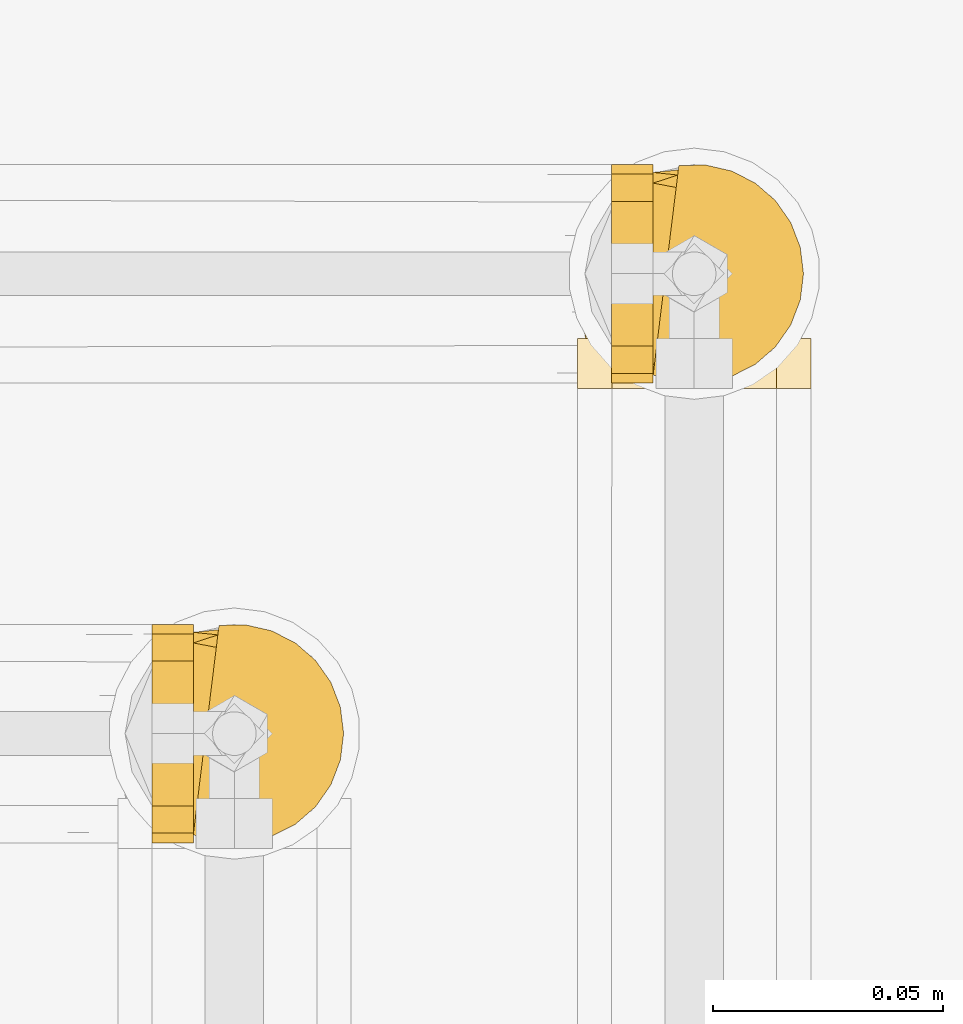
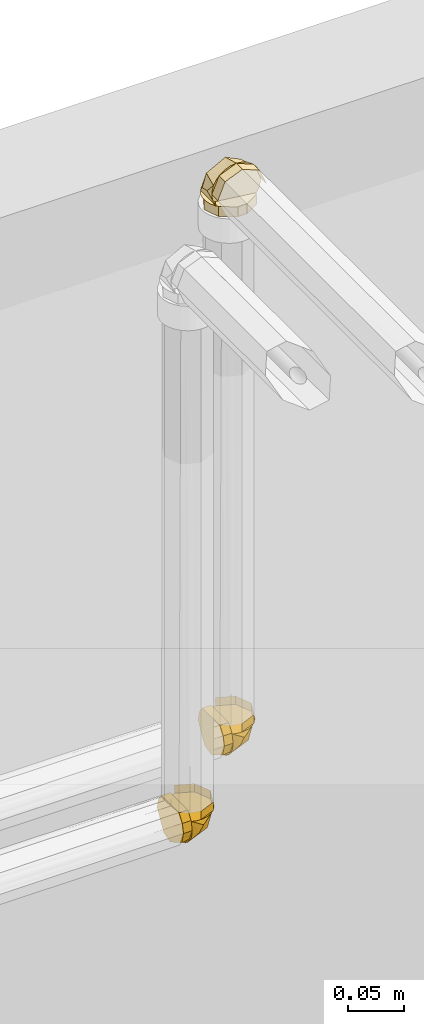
# One storey, part 399 of 652: 3 coverings.
"""IFC2X3 building model written with IfcOpenShell, lengths in millimetres."""

from ifc_helpers import new_model, entity, si_unit, converted_unit, direction, frame, origin, place, context, subcontext, project, spatial, face_set, surface_model, material, type_object, element, save


model = new_model("IFC2X3")

# Units and contexts
model_context = context("Model", 3, precision=0.01, world=frame((0.0, 0.0, 308426.39999999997)), true_north=direction((6.123233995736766e-17, 1.0)))
plan_context = context("Plan", 3, precision=0.01, world=frame((0.0, 0.0, 308426.39999999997)), true_north=direction((6.123233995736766e-17, 1.0)))
body_context = subcontext(model_context, "Body", "Model", "MODEL_VIEW")
ifc_project = project(units=[si_unit("LENGTHUNIT", "METRE", prefix="MILLI"), si_unit("AREAUNIT", "SQUARE_METRE"), si_unit("VOLUMEUNIT", "CUBIC_METRE"), converted_unit("PLANEANGLEUNIT", "DEGREE", entity("IfcPlaneAngleMeasure", 0.017453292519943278), si_unit("PLANEANGLEUNIT", "RADIAN"), dimensions=[0, 0, 0, 0, 0, 0, 0])], contexts=[model_context, plan_context])

# Site, building, storey
site_placement = place(None, origin())
site = spatial("IfcSite", under=ifc_project, at=site_placement, Name="Default", CompositionType="ELEMENT")
building_placement = place(site_placement, origin())
building = spatial("IfcBuilding", under=site, at=building_placement, CompositionType="ELEMENT")
storey_placement = place(building_placement, frame((0.0, 0.0, 1730.6999999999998)))
storey = spatial("IfcBuildingStorey", under=building, at=storey_placement, Name="EG_Produktion_FFB", CompositionType="ELEMENT", Elevation=1730.6999999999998)

# Coverings
ifc_material = material(Name="Dämmung - Armaflex-Schlauch")
covering_type = type_object("IfcCoveringType", Name="Rohrdämmung außen:Armaflex-Schlauch", PredefinedType="INSULATION")
covering_1_placement = place(storey_placement, frame((23718.23970135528, 77880.86412458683, 3326.9452722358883)))
element("IfcCovering", 1, at=covering_1_placement, inside=storey, type_object=covering_type, material=ifc_material, Name="Rohrdämmung außen:Armaflex-Schlauch", ObjectType="Rohrdämmung außen:Armaflex-Schlauch", PredefinedType="INSULATION", context=body_context, shape_type="SurfaceModel", body=[
    surface_model("IfcFaceBasedSurfaceModel", [(48.02950862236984, 12.44312541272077, -41.01927223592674), (50.77002630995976, 12.44312541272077, -35.60573373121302), (52.14558701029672, 12.44312541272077, -29.696024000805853), (52.07738272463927, 12.44312541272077, -23.628719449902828), (50.56932098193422, 12.44312541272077, -17.751425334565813), (47.70780097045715, 12.443125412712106, -12.400860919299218), (43.656763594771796, 12.443125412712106, -7.88356830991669), (38.648299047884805, 12.443125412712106, -4.458350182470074), (32.96935000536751, 12.443125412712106, -2.321442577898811), (26.94527223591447, 12.443125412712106, -1.595272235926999), (20.92119446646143, 12.443125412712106, -2.321442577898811), (15.242245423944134, 12.443125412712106, -4.458350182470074), (10.233780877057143, 12.443125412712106, -7.88356830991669), (6.1827435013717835, 12.443125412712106, -12.400860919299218), (3.3212234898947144, 12.44312541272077, -17.75142533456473), (1.8131617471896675, 12.44312541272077, -23.628719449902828), (1.744957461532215, 12.44312541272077, -29.696024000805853), (3.120518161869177, 12.44312541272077, -35.60573373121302), (5.861035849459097, 12.44312541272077, -41.01927223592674), (3.120518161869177, 17.85666391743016, -41.01927223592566), (1.744957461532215, 23.766373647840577, -41.019272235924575), (1.8131617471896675, 29.83367819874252, -41.019272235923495), (3.3212234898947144, 35.71097231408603, -41.019272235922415), (6.1827435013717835, 41.061536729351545, -41.019272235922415), (10.233780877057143, 45.57882933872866, -41.01927223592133), (15.242245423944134, 49.00404746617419, -41.01927223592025), (20.92119446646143, 51.14095507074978, -41.01927223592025), (26.94527223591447, 51.86712541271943, -41.01927223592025), (32.96935000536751, 51.14095507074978, -41.01927223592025), (38.648299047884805, 49.00404746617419, -41.01927223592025), (43.656763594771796, 45.57882933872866, -41.01927223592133), (47.70780097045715, 41.061536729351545, -41.019272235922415), (50.56932098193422, 35.71097231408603, -41.019272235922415), (52.07738272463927, 29.83367819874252, -41.019272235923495), (52.14558701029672, 23.766373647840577, -41.019272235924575), (50.77002630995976, 17.85666391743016, -41.01927223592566), (52.05357257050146, 26.013084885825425, -29.871929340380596), (43.78663531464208, 34.06840715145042, -16.063469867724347), (37.61956988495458, 12.441820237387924, -7.150641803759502), (26.945802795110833, 32.156895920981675, -6.8768213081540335), (47.86778155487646, 12.441820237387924, -26.70991304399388), (38.756709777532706, 43.78874406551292, -41.019504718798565), (26.945802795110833, 42.01210832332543, -23.94845369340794), (49.33513384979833, 24.403880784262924, -41.019504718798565), (1.6450215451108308, 21.334300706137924, -28.10517671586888), (7.958589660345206, 33.482396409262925, -18.427279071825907), (16.269710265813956, 46.309520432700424, -41.019504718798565), (17.227791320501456, 12.441820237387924, -8.240691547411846), (2.7100728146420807, 31.701109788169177, -31.44160097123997), (4.591353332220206, 12.441820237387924, -29.38533113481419), (5.993593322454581, 24.213194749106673, -41.019504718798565), (52.29541827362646, 1.549461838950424, -26.945363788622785), (52.29541827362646, 12.441820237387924, -26.945363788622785), (44.87029009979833, 12.441820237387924, -9.020295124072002), (44.87029009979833, 1.549461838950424, -9.020295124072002), (26.945802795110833, 12.441820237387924, -1.595166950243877), (26.945802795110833, 1.549461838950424, -1.595166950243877), (9.018990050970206, 12.441820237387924, -9.020295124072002), (9.018990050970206, 1.549461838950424, -9.020295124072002), (1.5961873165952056, 12.441820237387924, -26.945363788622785), (1.5961873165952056, 1.549461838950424, -26.945363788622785), (22.305904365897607, 1.5952722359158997, -51.91227223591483), (14.877316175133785, 5.955160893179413, -51.912272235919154), (7.448727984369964, 10.315049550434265, -51.91227223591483), (4.522000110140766, 18.416087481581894, -51.91227223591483), (1.5952722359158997, 26.517125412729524, -51.91227223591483), (4.764022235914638, 32.00556140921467, -51.91227223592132), (7.932772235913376, 37.493997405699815, -51.912272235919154), (11.101522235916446, 42.9824334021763, -51.91227223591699), (14.270272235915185, 48.47086939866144, -51.91227223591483), (20.60777223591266, 50.16899740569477, -51.91227223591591), (26.94527223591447, 51.86712541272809, -51.91227223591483), (32.43370823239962, 48.69837541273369, -51.91227223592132), (37.92214422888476, 45.52962541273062, -51.912272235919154), (43.410580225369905, 42.360875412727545, -51.91227223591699), (48.89901622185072, 39.19212541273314, -51.91227223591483), (50.59714422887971, 32.854625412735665, -51.91227223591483), (52.29527223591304, 26.517125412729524, -51.91227223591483), (49.36854436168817, 18.416087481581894, -51.912272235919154), (46.44181648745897, 10.315049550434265, -51.91227223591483), (39.013228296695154, 5.955160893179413, -51.91227223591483), (31.584640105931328, 1.5952722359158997, -51.91227223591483), (9.020115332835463, 44.442282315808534, -41.019272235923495), (7.1639045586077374, 39.96099309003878, -41.019272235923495), (5.307693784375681, 35.47970386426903, -41.019272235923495), (3.4514830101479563, 30.998414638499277, -41.019272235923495), (1.5952722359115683, 26.517125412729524, -41.019272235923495), (4.522000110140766, 18.416087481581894, -41.019272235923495), (7.448727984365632, 10.315049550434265, -41.019272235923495), (14.761316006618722, 6.023242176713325, -41.019272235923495), (18.533610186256, 3.809257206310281, -41.019272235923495), (22.305904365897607, 1.5952722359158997, -41.019272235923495), (31.584640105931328, 1.5952722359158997, -41.019272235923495), (39.013228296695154, 5.955160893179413, -41.019272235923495), (46.44181648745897, 10.315049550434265, -41.019272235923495), (49.32284242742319, 18.289586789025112, -41.019272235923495), (50.809057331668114, 22.403356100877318, -41.019272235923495), (52.29527223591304, 26.517125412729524, -41.019272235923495), (50.43906146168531, 30.998414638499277, -41.019272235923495), (48.58285068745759, 35.47970386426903, -41.019272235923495), (46.72663991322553, 39.96099309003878, -41.019272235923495), (44.87042913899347, 44.442282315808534, -41.019272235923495), (40.38913991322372, 46.29849309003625, -41.019272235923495), (35.90785068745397, 48.15470386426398, -41.019272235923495), (31.42656146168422, 50.01091463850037, -41.019272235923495), (26.94527223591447, 51.86712541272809, -41.019272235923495), (22.463983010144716, 50.01091463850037, -41.019272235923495), (17.982693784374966, 48.15470386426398, -41.019272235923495), (13.501404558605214, 46.29849309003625, -41.019272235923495)], [face_set([[[0, 1, 2, 3, 4, 5, 6, 7, 8, 9, 10, 11, 12, 13, 14, 15, 16, 17]], [[18, 19, 20, 21, 22, 23, 24, 25, 26, 27, 28, 29, 30, 31, 32, 33, 34, 35]], [[36, 32, 37]], [[37, 38, 5]], [[39, 9, 38]], [[5, 40, 36]], [[39, 38, 37]], [[41, 42, 37]], [[0, 36, 40]], [[43, 32, 36]], [[36, 37, 5]], [[0, 43, 36]], [[37, 32, 41]], [[42, 41, 27]], [[42, 39, 37]], [[44, 14, 45]], [[46, 23, 45]], [[46, 45, 42]], [[47, 9, 39]], [[48, 44, 45]], [[47, 45, 14]], [[44, 18, 49, 14]], [[39, 45, 47]], [[18, 44, 48]], [[23, 50, 48]], [[18, 48, 50]], [[45, 39, 42]], [[42, 27, 46]], [[23, 48, 45]]]), face_set([[[51, 52, 53, 54]], [[55, 56, 54, 53]], [[56, 55, 57, 58]], [[59, 60, 58, 57]]]), face_set([[[61, 62, 63, 64, 65, 66, 67, 68, 69, 70, 71, 72, 73, 74, 75, 76, 77, 78, 79, 80, 81]], [[82, 83, 84, 85, 86, 87, 88, 89, 90, 91, 92, 93, 94, 95, 96, 97, 98, 99, 100, 101, 102, 103, 104, 105, 106, 107, 108]], [[61, 81, 92, 91]], [[79, 78, 77, 97, 96, 95, 94]], [[80, 79, 94, 93, 92, 81]], [[100, 74, 101]], [[71, 104, 72]], [[104, 103, 72]], [[76, 99, 98]], [[98, 97, 77]], [[74, 100, 75]], [[73, 103, 102]], [[71, 105, 104]], [[103, 73, 72]], [[77, 76, 98]], [[102, 101, 74]], [[100, 99, 75]], [[76, 75, 99]], [[73, 102, 74]], [[108, 68, 82]], [[65, 85, 66]], [[85, 84, 66]], [[70, 107, 106]], [[106, 105, 71]], [[68, 108, 69]], [[67, 84, 83]], [[65, 86, 85]], [[84, 67, 66]], [[71, 70, 106]], [[83, 82, 68]], [[108, 107, 69]], [[70, 69, 107]], [[67, 83, 68]], [[63, 62, 61, 91, 90, 89, 88]], [[64, 63, 88, 87, 86, 65]]])]),
])
covering_2_placement = place(storey_placement, frame((23725.796052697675, 77882.02347776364, 2674.6422277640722)))
element("IfcCovering", 2, at=covering_2_placement, inside=storey, type_object=covering_type, material=ifc_material, Name="Rohrdämmung außen:Armaflex-Schlauch", ObjectType="Rohrdämmung außen:Armaflex-Schlauch", PredefinedType="INSULATION", context=body_context, shape_type="SurfaceModel", body=[
    surface_model("IfcFaceBasedSurfaceModel", [(10.458420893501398, 3.3372686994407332, 34.28827223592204), (16.054796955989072, 1.8303409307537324, 34.28827223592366), (21.849513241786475, 1.7230119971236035, 34.288272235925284), (27.4978539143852, 3.0216666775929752, 34.288272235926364), (32.663810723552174, 5.649050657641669, 34.28827223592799), (37.04007144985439, 9.44886623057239, 34.28827223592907), (40.36630128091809, 14.195070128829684, 34.28827223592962), (42.44462959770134, 19.605320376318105, 34.2882722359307), (43.15142089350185, 25.357772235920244, 34.2882722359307), (42.44462959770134, 31.110224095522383, 34.2882722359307), (40.36630128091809, 36.520474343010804, 34.28827223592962), (37.04007144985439, 41.266678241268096, 34.28827223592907), (32.663810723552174, 45.066493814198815, 34.28827223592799), (27.4978539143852, 47.69387779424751, 34.288272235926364), (21.849513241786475, 48.99253247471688, 34.288272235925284), (16.054796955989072, 48.88520354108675, 34.28827223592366), (10.458420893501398, 47.37827577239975, 34.28827223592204), (10.458420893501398, 48.88520354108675, 28.691896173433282), (10.45842089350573, 48.99253247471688, 22.897179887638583), (10.45842089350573, 47.69387779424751, 17.248839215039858), (10.45842089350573, 45.066493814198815, 12.08288240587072), (10.45842089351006, 41.266678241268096, 7.706621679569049), (10.45842089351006, 36.520474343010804, 4.3803918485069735), (10.45842089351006, 31.110224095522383, 2.3020635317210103), (10.45842089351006, 25.357772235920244, 1.5952722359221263), (10.45842089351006, 19.605320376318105, 2.3020635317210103), (10.45842089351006, 14.195070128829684, 4.3803918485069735), (10.45842089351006, 9.44886623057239, 7.706621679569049), (10.45842089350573, 5.649050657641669, 12.08288240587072), (10.45842089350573, 3.0216666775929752, 17.248839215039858), (10.45842089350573, 1.7230119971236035, 22.897179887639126), (10.458420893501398, 1.8303409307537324, 28.691896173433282), (18.580198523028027, 2.999251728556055, 19.381296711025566), (30.595744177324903, 9.501180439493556, 16.8672059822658), (10.457438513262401, 4.478231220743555, 23.314486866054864), (37.96738724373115, 15.617086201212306, 34.28823564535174), (38.7719892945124, 25.356026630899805, 17.941849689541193), (10.457438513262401, 15.505465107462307, 6.839039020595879), (23.5264082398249, 25.356026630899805, 9.140061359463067), (22.524143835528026, 2.138839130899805, 27.208144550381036), (21.561411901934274, 4.492183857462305, 34.28823564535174), (18.580198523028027, 47.717452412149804, 19.381296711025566), (22.524143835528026, 48.577865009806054, 27.208144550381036), (30.595744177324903, 41.215523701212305, 16.8672059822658), (37.96738724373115, 35.099617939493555, 34.28823564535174), (10.457438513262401, 46.23382204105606, 23.314486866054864), (10.457438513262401, 35.099617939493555, 6.7782869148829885), (24.614713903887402, 25.356026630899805, 9.768511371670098), (21.561411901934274, 46.22452028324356, 34.28823564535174), (19.389451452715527, 1.5946862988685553, 43.308033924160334), (19.389451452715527, 1.5946862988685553, 34.28823564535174), (36.19075150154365, 8.557052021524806, 34.28823564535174), (36.19075150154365, 8.557052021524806, 43.308033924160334), (43.15079178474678, 25.356026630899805, 34.28823564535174), (43.15079178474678, 25.356026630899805, 43.308033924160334), (36.19075150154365, 42.159652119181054, 34.28823564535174), (36.19075150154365, 42.159652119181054, 43.308033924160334), (19.389451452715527, 49.122017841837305, 34.28823564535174), (19.389451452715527, 49.122017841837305, 43.308033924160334), (1.4386708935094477, 46.14995973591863, 20.213040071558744), (1.4386708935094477, 43.179647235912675, 15.06830790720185), (1.438670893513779, 40.20933473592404, 9.923575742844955), (1.438670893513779, 37.239022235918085, 4.7788435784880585), (1.438670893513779, 31.298397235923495, 3.1870579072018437), (1.438670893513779, 25.357772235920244, 1.595272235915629), (1.4386708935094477, 20.21304007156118, 4.565584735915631), (1.4386708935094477, 15.068307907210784, 7.535897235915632), (1.4386708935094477, 9.923575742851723, 10.506209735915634), (1.438670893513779, 4.778843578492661, 13.476522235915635), (1.438670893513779, 3.1870579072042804, 19.41714723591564), (1.438670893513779, 1.5952722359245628, 25.35777223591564), (1.4386708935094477, 2.643120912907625, 30.23645211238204), (1.438670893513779, 3.690969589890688, 35.11513198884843), (1.438670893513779, 6.649688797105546, 39.13327644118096), (1.438670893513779, 9.608408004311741, 43.15142089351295), (1.438670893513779, 41.10713646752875, 43.15142089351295), (1.4386708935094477, 44.06585567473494, 39.13327644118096), (1.438670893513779, 47.024574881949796, 35.11513198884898), (1.438670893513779, 48.07242355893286, 30.23645211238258), (1.438670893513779, 49.12027223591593, 25.35777223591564), (10.458420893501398, 42.160397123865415, 8.55514734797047), (10.458420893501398, 43.90036590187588, 12.755803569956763), (10.458420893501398, 45.64033467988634, 16.956459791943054), (10.458420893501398, 47.380303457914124, 21.157116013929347), (10.458420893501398, 49.12027223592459, 25.35777223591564), (10.458420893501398, 48.07242355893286, 30.23645211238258), (10.458420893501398, 47.024574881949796, 35.11513198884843), (10.458420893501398, 43.985875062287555, 39.241895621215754), (10.458420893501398, 41.10713646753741, 43.15142089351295), (10.458420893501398, 9.608408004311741, 43.15142089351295), (10.458420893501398, 6.649688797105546, 39.13327644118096), (10.458420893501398, 3.6909695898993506, 35.11513198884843), (10.458420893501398, 2.6147952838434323, 30.10457078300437), (10.458420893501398, 1.5952722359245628, 25.35777223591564), (10.458420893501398, 3.335241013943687, 21.157116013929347), (10.458420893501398, 5.075209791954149, 16.956459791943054), (10.458420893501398, 6.815178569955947, 12.755803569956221), (10.458420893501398, 8.55514734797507, 8.555147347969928), (10.458420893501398, 12.755803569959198, 6.815178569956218), (10.458420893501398, 16.956459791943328, 5.075209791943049), (10.458420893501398, 21.157116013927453, 3.335241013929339), (10.458420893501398, 25.357772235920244, 1.595272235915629), (10.458420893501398, 29.55842845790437, 3.335241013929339), (10.458420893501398, 33.759084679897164, 5.075209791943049), (10.458420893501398, 37.95974090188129, 6.8151785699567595)], [face_set([[[0, 1, 2, 3, 4, 5, 6, 7, 8, 9, 10, 11, 12, 13, 14, 15]], [[16, 17, 18, 19, 20, 21, 22, 23, 24, 25, 26, 27, 28, 29, 30, 31]], [[32, 28, 33]], [[32, 34, 28]], [[33, 35, 4]], [[35, 33, 36]], [[36, 8, 35]], [[33, 37, 38]], [[39, 4, 40]], [[32, 33, 39]], [[34, 32, 0]], [[4, 39, 33]], [[38, 36, 33]], [[0, 32, 39]], [[33, 28, 37]], [[37, 24, 38]], [[0, 39, 40]], [[41, 16, 42]], [[43, 44, 36]], [[20, 45, 41]], [[46, 43, 47]], [[44, 8, 36]], [[12, 43, 42]], [[44, 43, 12]], [[42, 16, 48]], [[20, 43, 46]], [[16, 41, 45]], [[43, 41, 42]], [[43, 36, 47]], [[47, 24, 46]], [[20, 41, 43]], [[48, 12, 42]]]), face_set([[[49, 50, 51, 52]], [[53, 54, 52, 51]], [[54, 53, 55, 56]], [[57, 58, 56, 55]]]), face_set([[[59, 60, 61, 62, 63, 64, 65, 66, 67, 68, 69, 70, 71, 72, 73, 74, 75, 76, 77, 78, 79]], [[80, 81, 82, 83, 84, 85, 86, 87, 88, 89, 90, 91, 92, 93, 94, 95, 96, 97, 98, 99, 100, 101, 102, 103, 104]], [[75, 74, 89, 88]], [[71, 70, 93, 92, 91, 72]], [[73, 72, 91, 90, 89, 74]], [[96, 67, 97]], [[64, 100, 65]], [[100, 99, 65]], [[69, 95, 94]], [[94, 93, 70]], [[67, 96, 68]], [[66, 99, 98]], [[64, 101, 100]], [[99, 66, 65]], [[70, 69, 94]], [[98, 97, 67]], [[96, 95, 68]], [[69, 68, 95]], [[66, 98, 67]], [[104, 61, 80]], [[79, 83, 59]], [[83, 82, 59]], [[63, 103, 102]], [[102, 101, 64]], [[61, 104, 62]], [[60, 82, 81]], [[79, 84, 83]], [[82, 60, 59]], [[64, 63, 102]], [[81, 80, 61]], [[104, 103, 62]], [[63, 62, 103]], [[60, 81, 61]], [[76, 75, 88, 87, 86, 77]], [[78, 77, 86, 85, 84, 79]]])]),
])
covering_3_placement = place(storey_placement, frame((23625.79605269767, 77782.02347776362, 2674.6422277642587)))
element("IfcCovering", 3, at=covering_3_placement, inside=storey, type_object=covering_type, material=ifc_material, Name="Rohrdämmung außen:Armaflex-Schlauch", ObjectType="Rohrdämmung außen:Armaflex-Schlauch", PredefinedType="INSULATION", context=body_context, shape_type="SurfaceModel", body=[
    surface_model("IfcFaceBasedSurfaceModel", [(10.45842089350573, 3.3372686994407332, 34.28827223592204), (16.054796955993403, 1.8303409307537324, 34.28827223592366), (21.849513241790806, 1.7230119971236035, 34.288272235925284), (27.497853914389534, 3.0216666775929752, 34.288272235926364), (32.6638107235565, 5.649050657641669, 34.28827223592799), (37.040071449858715, 9.44886623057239, 34.28827223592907), (40.366301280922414, 14.195070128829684, 34.28827223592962), (42.44462959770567, 19.605320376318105, 34.2882722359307), (43.15142089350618, 25.357772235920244, 34.2882722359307), (42.44462959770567, 31.110224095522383, 34.2882722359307), (40.366301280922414, 36.520474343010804, 34.28827223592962), (37.040071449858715, 41.266678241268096, 34.28827223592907), (32.6638107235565, 45.066493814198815, 34.28827223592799), (27.497853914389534, 47.69387779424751, 34.288272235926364), (21.849513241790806, 48.99253247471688, 34.288272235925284), (16.054796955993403, 48.88520354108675, 34.28827223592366), (10.45842089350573, 47.37827577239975, 34.28827223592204), (10.45842089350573, 48.88520354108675, 28.691896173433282), (10.45842089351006, 48.99253247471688, 22.897179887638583), (10.45842089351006, 47.69387779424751, 17.248839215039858), (10.45842089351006, 45.066493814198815, 12.08288240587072), (10.458420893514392, 41.266678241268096, 7.706621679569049), (10.458420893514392, 36.520474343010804, 4.3803918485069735), (10.458420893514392, 31.110224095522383, 2.3020635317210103), (10.458420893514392, 25.357772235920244, 1.5952722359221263), (10.458420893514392, 19.605320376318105, 2.3020635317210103), (10.458420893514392, 14.195070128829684, 4.3803918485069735), (10.458420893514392, 9.44886623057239, 7.706621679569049), (10.45842089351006, 5.649050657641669, 12.08288240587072), (10.45842089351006, 3.0216666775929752, 17.248839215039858), (10.45842089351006, 1.7230119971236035, 22.897179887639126), (10.45842089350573, 1.8303409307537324, 28.691896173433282), (18.581651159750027, 3.00070436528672, 19.381296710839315), (30.59487137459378, 9.49798219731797, 16.867205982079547), (10.458891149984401, 4.47968385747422, 23.31448686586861), (37.96883988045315, 15.618538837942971, 34.288235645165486), (38.77111649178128, 25.35747926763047, 17.94184968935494), (10.458891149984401, 15.502266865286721, 6.839039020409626), (23.525535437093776, 25.35747926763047, 9.140061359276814), (22.523271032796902, 2.14029176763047, 27.20814455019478), (21.56053909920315, 4.49363649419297, 34.288235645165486), (18.581651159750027, 47.71890504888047, 19.381296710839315), (22.523271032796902, 48.57466676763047, 27.20814455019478), (30.59487137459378, 41.216976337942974, 16.867205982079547), (37.96883988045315, 35.09641969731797, 34.288235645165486), (10.458891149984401, 46.23527467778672, 23.31448686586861), (10.458891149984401, 35.09641969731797, 6.778286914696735), (24.61384110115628, 25.35747926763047, 9.768511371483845), (21.56053909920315, 46.22132204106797, 34.288235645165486), (19.388578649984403, 1.5961389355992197, 43.30803392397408), (19.388578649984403, 1.5961389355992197, 34.288235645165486), (36.19220413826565, 8.55385377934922, 34.288235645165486), (36.19220413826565, 8.55385377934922, 43.30803392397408), (43.15224442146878, 25.35747926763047, 34.288235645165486), (43.15224442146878, 25.35747926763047, 43.30803392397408), (36.19220413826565, 42.16110475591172, 34.288235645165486), (36.19220413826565, 42.16110475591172, 43.30803392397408), (19.388578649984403, 49.11881959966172, 34.288235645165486), (19.388578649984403, 49.11881959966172, 43.30803392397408), (1.4386708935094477, 46.14995973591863, 20.213040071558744), (1.438670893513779, 43.179647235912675, 15.06830790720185), (1.4386708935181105, 40.20933473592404, 9.923575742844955), (1.4386708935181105, 37.239022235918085, 4.7788435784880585), (1.4386708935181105, 31.298397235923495, 3.1870579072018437), (1.4386708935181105, 25.357772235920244, 1.595272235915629), (1.4386708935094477, 20.21304007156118, 4.565584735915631), (1.438670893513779, 15.068307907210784, 7.535897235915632), (1.438670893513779, 9.923575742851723, 10.506209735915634), (1.4386708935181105, 4.778843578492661, 13.476522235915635), (1.4386708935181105, 3.1870579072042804, 19.41714723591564), (1.4386708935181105, 1.5952722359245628, 25.35777223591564), (1.438670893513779, 2.643120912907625, 30.23645211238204), (1.4386708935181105, 3.690969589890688, 35.11513198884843), (1.4386708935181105, 6.649688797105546, 39.13327644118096), (1.4386708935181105, 9.608408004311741, 43.15142089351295), (1.4386708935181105, 41.10713646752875, 43.15142089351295), (1.438670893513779, 44.06585567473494, 39.13327644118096), (1.4386708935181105, 47.024574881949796, 35.11513198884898), (1.4386708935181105, 48.07242355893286, 30.23645211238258), (1.4386708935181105, 49.12027223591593, 25.35777223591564), (10.45842089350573, 42.160397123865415, 8.55514734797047), (10.45842089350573, 43.90036590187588, 12.755803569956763), (10.45842089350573, 45.64033467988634, 16.956459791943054), (10.45842089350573, 47.380303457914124, 21.157116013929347), (10.45842089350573, 49.12027223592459, 25.35777223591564), (10.45842089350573, 48.07242355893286, 30.23645211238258), (10.45842089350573, 47.024574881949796, 35.11513198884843), (10.45842089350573, 43.985875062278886, 39.241895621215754), (10.45842089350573, 41.10713646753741, 43.15142089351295), (10.45842089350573, 9.608408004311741, 43.15142089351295), (10.45842089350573, 6.649688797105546, 39.13327644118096), (10.45842089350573, 3.6909695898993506, 35.11513198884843), (10.458420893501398, 2.6147952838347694, 30.10457078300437), (10.45842089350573, 1.5952722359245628, 25.35777223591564), (10.45842089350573, 3.335241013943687, 21.157116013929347), (10.45842089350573, 5.075209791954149, 16.956459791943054), (10.45842089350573, 6.815178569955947, 12.755803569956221), (10.45842089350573, 8.55514734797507, 8.555147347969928), (10.45842089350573, 12.755803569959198, 6.815178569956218), (10.45842089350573, 16.956459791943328, 5.075209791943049), (10.45842089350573, 21.157116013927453, 3.335241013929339), (10.45842089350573, 25.357772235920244, 1.595272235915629), (10.45842089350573, 29.55842845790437, 3.335241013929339), (10.45842089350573, 33.759084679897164, 5.075209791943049), (10.45842089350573, 37.95974090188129, 6.8151785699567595)], [face_set([[[0, 1, 2, 3, 4, 5, 6, 7, 8, 9, 10, 11, 12, 13, 14, 15]], [[16, 17, 18, 19, 20, 21, 22, 23, 24, 25, 26, 27, 28, 29, 30, 31]], [[32, 28, 33]], [[32, 34, 28]], [[33, 35, 4]], [[35, 33, 36]], [[36, 8, 35]], [[33, 37, 38]], [[39, 4, 40]], [[32, 33, 39]], [[34, 32, 0]], [[4, 39, 33]], [[38, 36, 33]], [[0, 32, 39]], [[33, 28, 37]], [[37, 24, 38]], [[0, 39, 40]], [[41, 16, 42]], [[43, 44, 36]], [[20, 45, 41]], [[46, 43, 47]], [[44, 8, 36]], [[12, 43, 42]], [[44, 43, 12]], [[42, 16, 48]], [[20, 43, 46]], [[16, 41, 45]], [[43, 41, 42]], [[43, 36, 47]], [[47, 24, 46]], [[20, 41, 43]], [[48, 12, 42]]]), face_set([[[49, 50, 51, 52]], [[53, 54, 52, 51]], [[54, 53, 55, 56]], [[57, 58, 56, 55]]]), face_set([[[59, 60, 61, 62, 63, 64, 65, 66, 67, 68, 69, 70, 71, 72, 73, 74, 75, 76, 77, 78, 79]], [[80, 81, 82, 83, 84, 85, 86, 87, 88, 89, 90, 91, 92, 93, 94, 95, 96, 97, 98, 99, 100, 101, 102, 103, 104]], [[75, 74, 89, 88]], [[71, 70, 93, 92, 91, 72]], [[73, 72, 91, 90, 89, 74]], [[96, 67, 97]], [[64, 100, 65]], [[100, 99, 65]], [[69, 95, 94]], [[94, 93, 70]], [[67, 96, 68]], [[66, 99, 98]], [[64, 101, 100]], [[99, 66, 65]], [[70, 69, 94]], [[98, 97, 67]], [[96, 95, 68]], [[69, 68, 95]], [[66, 98, 67]], [[104, 61, 80]], [[79, 83, 59]], [[83, 82, 59]], [[63, 103, 102]], [[102, 101, 64]], [[61, 104, 62]], [[60, 82, 81]], [[79, 84, 83]], [[82, 60, 59]], [[64, 63, 102]], [[81, 80, 61]], [[104, 103, 62]], [[63, 62, 103]], [[60, 81, 61]], [[76, 75, 88, 87, 86, 77]], [[78, 77, 86, 85, 84, 79]]])]),
])

save(model, "model.ifc")
